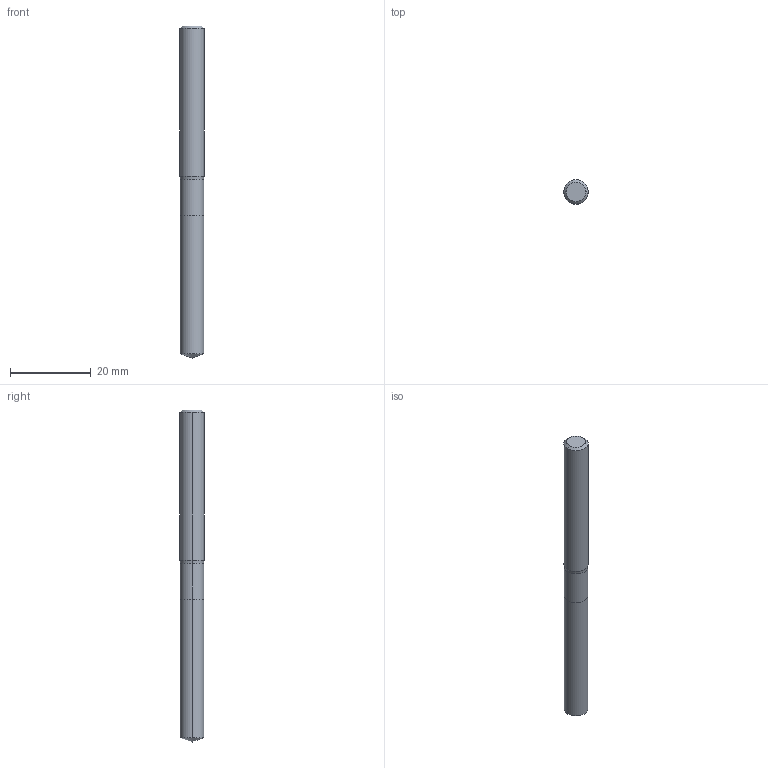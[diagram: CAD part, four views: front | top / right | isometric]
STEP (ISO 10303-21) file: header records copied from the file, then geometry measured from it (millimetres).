
FILE_DESCRIPTION (( 'STEP AP214' ), '1' );
FILE_NAME ('905.058.00_3D-model.step', '2022-02-24T17:40:59', ( '' ), ( '' ), 'SwSTEP 2.0', 'SolidWorks 2020', '' );
FILE_SCHEMA (( 'AUTOMOTIVE_DESIGN' ));
Length unit declared in the file: millimetre
Products named in the file (3): NOCUT-3D^Baugr44; CUT-3D^Baugr44; 905.058.00_3D-model
Assembly tree (2 placements, depth 2):
  905.058.00_3D-model
    CUT-3D^Baugr44
    NOCUT-3D^Baugr44
Bounding box: 6 x 6 x 82 mm (x, y, z)
Volume: 2214.1 mm3; surface area: 1600.7 mm2
Topology: 2 solids, 2 shells, 15 faces, 28 edges, 15 vertices
Faces by surface type: cylinder 6, cone 4, plane 3, torus 2
Entity records: 482 total; most frequent: DIRECTION 88, CARTESIAN_POINT 64, ORIENTED_EDGE 52, AXIS2_PLACEMENT_3D 39, EDGE_CURVE 26, CIRCLE 16, ADVANCED_FACE 15, VERTEX_POINT 15
